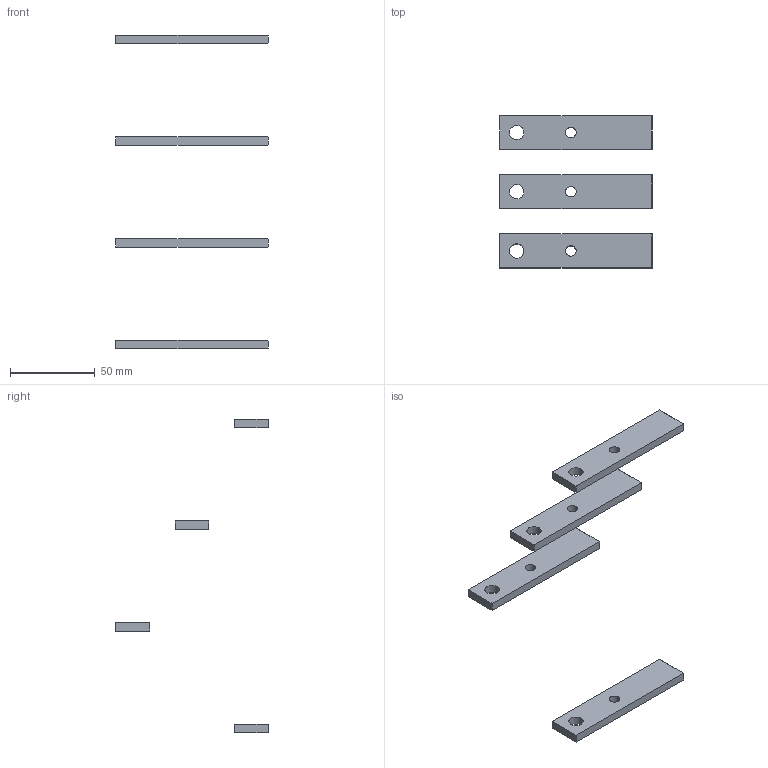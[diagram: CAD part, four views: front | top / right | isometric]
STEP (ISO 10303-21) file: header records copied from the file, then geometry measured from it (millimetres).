
FILE_DESCRIPTION(('CAx-IF Rec.Pracs.---Model Styling and Organization---1.2---2011-12-15','CAx-IF Rec.Pracs.---Geometric and Assembly Validation Properties---4.1---2014-06-16','CAx-IF Rec.Pracs.---PMI Polyline Presentation---2.0---2013-05-24'),'2;1');
FILE_NAME('R5M2WBB4P2.stp','2021-05-05T11:53:49+03:00',(''),(''),'STEP Interface 4.4 by CT CoreTechnologie','3D_Evolution4.4 by CT CoreTechnologie','');
FILE_SCHEMA(('AUTOMOTIVE_DESIGN { 1 0 10303 214 1 1 1 1 }'));
Length unit declared in the file: millimetre
Products named in the file (2): R5M2WBB4P2; RB.1291.00.00.0_-00
Assembly tree (4 placements, depth 2):
  R5M2WBB4P2
    RB.1291.00.00.0_-00  x4
Bounding box: 90 x 90 x 185 mm (x, y, z)
Surface area: 18979.3 mm2 (no closed solid volume)
Topology: 0 solids, 4 shells, 48 faces, 120 edges, 80 vertices
Faces by surface type: plane 32, cylinder 16
Entity records: 503 total; most frequent: DIRECTION 72, CARTESIAN_POINT 67, ORIENTED_EDGE 60, EDGE_CURVE 30, AXIS2_PLACEMENT_3D 25, VECTOR 22, LINE 22, VERTEX_POINT 20
